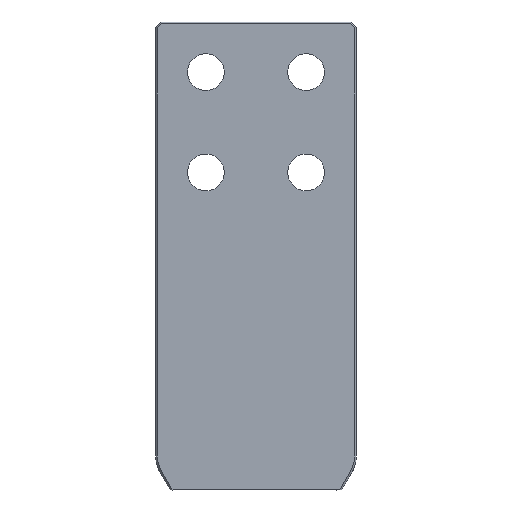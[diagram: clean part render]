
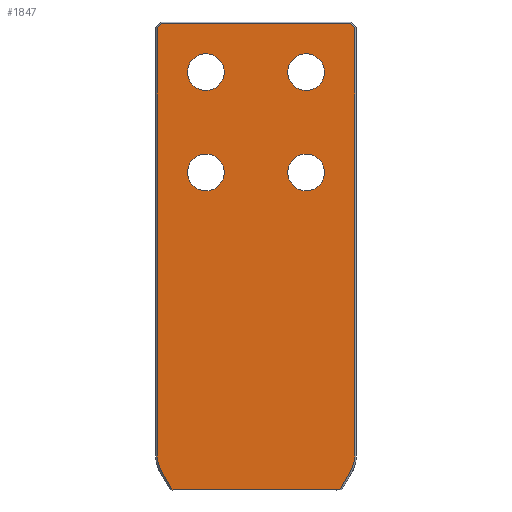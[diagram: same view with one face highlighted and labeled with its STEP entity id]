
A CAD part, front view. The second image highlights one B-rep face of the part: STEP entity #1847.
In plain terms, the highlighted planar face has unit normal (0, -1, 0).
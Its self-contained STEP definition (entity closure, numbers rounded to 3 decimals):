
#126=VERTEX_POINT(' ',#127);
#127=CARTESIAN_POINT('',(30.,-45.,-101.));
#128=VERTEX_POINT(' ',#129);
#129=CARTESIAN_POINT('',(30.,-45.,-79.));
#134=VERTEX_POINT(' ',#135);
#135=CARTESIAN_POINT('',(-30.,-45.,-41.));
#136=VERTEX_POINT(' ',#137);
#137=CARTESIAN_POINT('',(-30.,-45.,-19.));
#142=VERTEX_POINT(' ',#143);
#143=CARTESIAN_POINT('',(30.,-45.,-41.));
#144=VERTEX_POINT(' ',#145);
#145=CARTESIAN_POINT('',(30.,-45.,-19.));
#150=VERTEX_POINT(' ',#151);
#151=CARTESIAN_POINT('',(-30.,-45.,-101.));
#152=VERTEX_POINT(' ',#153);
#153=CARTESIAN_POINT('',(-30.,-45.,-79.));
#236=VERTEX_POINT(' ',#237);
#237=CARTESIAN_POINT('',(50.185,-45.,-280.));
#238=VERTEX_POINT(' ',#239);
#239=CARTESIAN_POINT('',(56.454,-45.,-269.141));
#240=VERTEX_POINT(' ',#241);
#241=CARTESIAN_POINT('',(59.,-45.,-259.641));
#242=VERTEX_POINT(' ',#243);
#243=CARTESIAN_POINT('',(59.,-45.,-120.));
#244=VERTEX_POINT(' ',#245);
#245=CARTESIAN_POINT('',(59.,-45.,-3.414));
#248=VERTEX_POINT(' ',#249);
#249=CARTESIAN_POINT('',(56.586,-45.,-1.));
#252=VERTEX_POINT(' ',#253);
#253=CARTESIAN_POINT('',(-56.586,-45.,-1.));
#256=VERTEX_POINT(' ',#257);
#257=CARTESIAN_POINT('',(-59.,-45.,-3.414));
#266=VERTEX_POINT(' ',#267);
#267=CARTESIAN_POINT('',(-50.185,-45.,-280.));
#268=VERTEX_POINT(' ',#269);
#269=CARTESIAN_POINT('',(-59.,-45.,-120.));
#270=VERTEX_POINT(' ',#271);
#271=CARTESIAN_POINT('',(-59.,-45.,-259.641));
#272=VERTEX_POINT(' ',#273);
#273=CARTESIAN_POINT('',(-56.454,-45.,-269.141));
#274=CIRCLE('',#275,11.);
#275=AXIS2_PLACEMENT_3D('',#276,#277,#278);
#276=CARTESIAN_POINT('',(30.,-45.,-90.));
#277=DIRECTION('',(0.,-1.,0.));
#278=DIRECTION('',(-1.,0.,0.));
#279=EDGE_CURVE(' ',#126,#128,#274,.T.);
#296=CIRCLE('',#297,11.);
#297=AXIS2_PLACEMENT_3D('',#298,#299,#300);
#298=CARTESIAN_POINT('',(30.,-45.,-90.));
#299=DIRECTION('',(0.,-1.,0.));
#300=DIRECTION('',(1.,0.,0.));
#301=EDGE_CURVE(' ',#128,#126,#296,.T.);
#308=CIRCLE('',#309,11.);
#309=AXIS2_PLACEMENT_3D('',#310,#311,#312);
#310=CARTESIAN_POINT('',(-30.,-45.,-30.));
#311=DIRECTION('',(0.,-1.,0.));
#312=DIRECTION('',(-1.,0.,0.));
#313=EDGE_CURVE(' ',#134,#136,#308,.T.);
#330=CIRCLE('',#331,11.);
#331=AXIS2_PLACEMENT_3D('',#332,#333,#334);
#332=CARTESIAN_POINT('',(-30.,-45.,-30.));
#333=DIRECTION('',(0.,-1.,0.));
#334=DIRECTION('',(1.,0.,0.));
#335=EDGE_CURVE(' ',#136,#134,#330,.T.);
#342=CIRCLE('',#343,11.);
#343=AXIS2_PLACEMENT_3D('',#344,#345,#346);
#344=CARTESIAN_POINT('',(30.,-45.,-30.));
#345=DIRECTION('',(0.,1.,0.));
#346=DIRECTION('',(-1.,0.,0.));
#347=EDGE_CURVE(' ',#142,#144,#342,.F.);
#364=CIRCLE('',#365,11.);
#365=AXIS2_PLACEMENT_3D('',#366,#367,#368);
#366=CARTESIAN_POINT('',(30.,-45.,-30.));
#367=DIRECTION('',(0.,1.,0.));
#368=DIRECTION('',(1.,0.,0.));
#369=EDGE_CURVE(' ',#144,#142,#364,.F.);
#376=CIRCLE('',#377,11.);
#377=AXIS2_PLACEMENT_3D('',#378,#379,#380);
#378=CARTESIAN_POINT('',(-30.,-45.,-90.));
#379=DIRECTION('',(0.,1.,0.));
#380=DIRECTION('',(-1.,0.,0.));
#381=EDGE_CURVE(' ',#150,#152,#376,.F.);
#398=CIRCLE('',#399,11.);
#399=AXIS2_PLACEMENT_3D('',#400,#401,#402);
#400=CARTESIAN_POINT('',(-30.,-45.,-90.));
#401=DIRECTION('',(0.,1.,0.));
#402=DIRECTION('',(1.,0.,0.));
#403=EDGE_CURVE(' ',#152,#150,#398,.F.);
#795=LINE('',#796,#797);
#796=CARTESIAN_POINT('',(56.454,-45.,-269.141));
#797=VECTOR('',#798,1.);
#798=DIRECTION('',(-0.5,0.,-0.866));
#799=EDGE_CURVE(' ',#238,#236,#795,.T.);
#805=CIRCLE('',#806,19.);
#806=AXIS2_PLACEMENT_3D('',#807,#808,#809);
#807=CARTESIAN_POINT('',(40.,-45.,-259.641));
#808=DIRECTION('',(0.,1.,0.));
#809=DIRECTION('',(-0.966,0.,0.259));
#810=EDGE_CURVE(' ',#240,#238,#805,.T.);
#816=LINE('',#817,#818);
#817=CARTESIAN_POINT('',(59.,-45.,-120.));
#818=VECTOR('',#819,1.);
#819=DIRECTION('',(0.,0.,-1.));
#820=EDGE_CURVE(' ',#242,#240,#816,.T.);
#826=LINE('',#827,#828);
#827=CARTESIAN_POINT('',(59.,-45.,2.657));
#828=VECTOR('',#829,1.);
#829=DIRECTION('',(0.,0.,-1.));
#830=EDGE_CURVE(' ',#244,#242,#826,.T.);
#846=LINE('',#847,#848);
#847=CARTESIAN_POINT('',(52.293,-45.,3.293));
#848=VECTOR('',#849,1.);
#849=DIRECTION('',(0.707,0.,-0.707));
#850=EDGE_CURVE(' ',#248,#244,#846,.T.);
#866=LINE('',#867,#868);
#867=CARTESIAN_POINT('',(-62.657,-45.,-1.));
#868=VECTOR('',#869,1.);
#869=DIRECTION('',(1.,0.,0.));
#870=EDGE_CURVE(' ',#252,#248,#866,.T.);
#886=LINE('',#887,#888);
#887=CARTESIAN_POINT('',(-63.293,-45.,-7.707));
#888=VECTOR('',#889,1.);
#889=DIRECTION('',(0.707,0.,0.707));
#890=EDGE_CURVE(' ',#256,#252,#886,.T.);
#937=LINE('',#938,#939);
#938=CARTESIAN_POINT('',(-60.12,-45.,-280.));
#939=VECTOR('',#940,1.);
#940=DIRECTION('',(1.,0.,0.));
#941=EDGE_CURVE(' ',#236,#266,#937,.F.);
#942=LINE('',#943,#944);
#943=CARTESIAN_POINT('',(-59.,-45.,-120.));
#944=VECTOR('',#945,1.);
#945=DIRECTION('',(0.,0.,1.));
#946=EDGE_CURVE(' ',#268,#256,#942,.T.);
#947=LINE('',#948,#949);
#948=CARTESIAN_POINT('',(-59.,-45.,-259.641));
#949=VECTOR('',#950,1.);
#950=DIRECTION('',(0.,0.,1.));
#951=EDGE_CURVE(' ',#270,#268,#947,.T.);
#952=CIRCLE('',#953,19.);
#953=AXIS2_PLACEMENT_3D('',#954,#955,#956);
#954=CARTESIAN_POINT('',(-40.,-45.,-259.641));
#955=DIRECTION('',(0.,1.,0.));
#956=DIRECTION('',(0.966,0.,0.259));
#957=EDGE_CURVE(' ',#272,#270,#952,.T.);
#958=LINE('',#959,#960);
#959=CARTESIAN_POINT('',(-47.645,-45.,-284.399));
#960=VECTOR('',#961,1.);
#961=DIRECTION('',(-0.5,0.,0.866));
#962=EDGE_CURVE(' ',#266,#272,#958,.T.);
#1812=ORIENTED_EDGE('',*,*,#946,.F.);
#1813=ORIENTED_EDGE('',*,*,#951,.F.);
#1814=ORIENTED_EDGE('',*,*,#957,.F.);
#1815=ORIENTED_EDGE('',*,*,#962,.F.);
#1816=ORIENTED_EDGE('',*,*,#941,.F.);
#1817=ORIENTED_EDGE('',*,*,#799,.F.);
#1818=ORIENTED_EDGE('',*,*,#810,.F.);
#1819=ORIENTED_EDGE('',*,*,#820,.F.);
#1820=ORIENTED_EDGE('',*,*,#830,.F.);
#1821=ORIENTED_EDGE('',*,*,#850,.F.);
#1822=ORIENTED_EDGE('',*,*,#870,.F.);
#1823=ORIENTED_EDGE('',*,*,#890,.F.);
#1824=EDGE_LOOP('',(#1812,#1813,#1814,#1815,#1816,#1817,#1818,#1819,#1820,#1821,#1822,#1823));
#1825=FACE_OUTER_BOUND('',#1824,.T.);
#1826=ORIENTED_EDGE('',*,*,#403,.F.);
#1827=ORIENTED_EDGE('',*,*,#381,.F.);
#1828=EDGE_LOOP('',(#1826,#1827));
#1829=FACE_BOUND('',#1828,.T.);
#1830=ORIENTED_EDGE('',*,*,#369,.F.);
#1831=ORIENTED_EDGE('',*,*,#347,.F.);
#1832=EDGE_LOOP('',(#1830,#1831));
#1833=FACE_BOUND('',#1832,.T.);
#1834=ORIENTED_EDGE('',*,*,#335,.F.);
#1835=ORIENTED_EDGE('',*,*,#313,.F.);
#1836=EDGE_LOOP('',(#1834,#1835));
#1837=FACE_BOUND('',#1836,.T.);
#1838=ORIENTED_EDGE('',*,*,#301,.F.);
#1839=ORIENTED_EDGE('',*,*,#279,.F.);
#1840=EDGE_LOOP('',(#1838,#1839));
#1841=FACE_BOUND('',#1840,.T.);
#1842=PLANE('',#1843);
#1843=AXIS2_PLACEMENT_3D('',#1844,#1845,#1846);
#1844=CARTESIAN_POINT('',(0.,-45.,0.));
#1845=DIRECTION('',(0.,-1.,0.));
#1846=DIRECTION('',(0.,0.,-1.));
#1847=ADVANCED_FACE('',(#1825,#1829,#1833,#1837,#1841),#1842,.T.);
